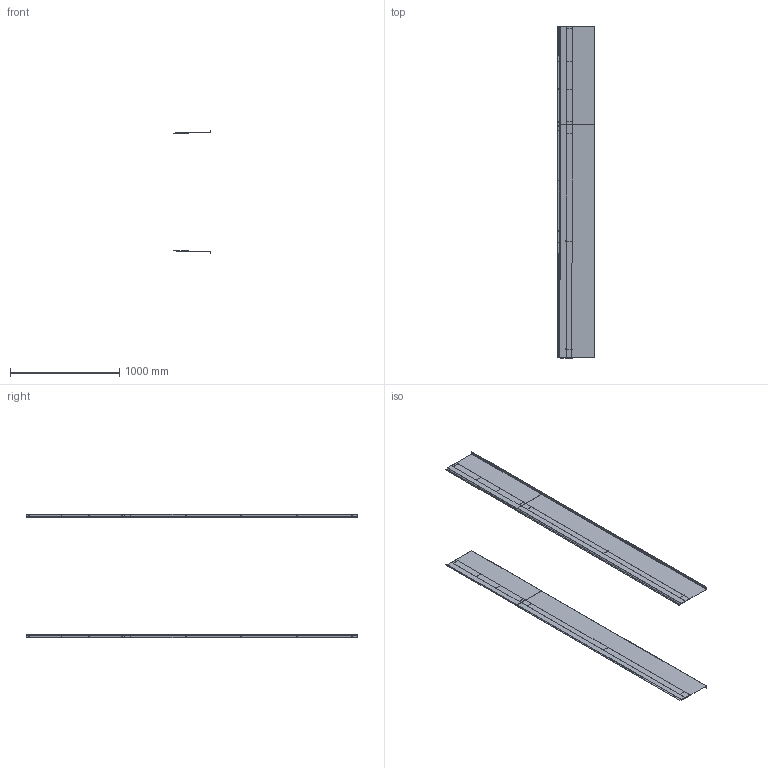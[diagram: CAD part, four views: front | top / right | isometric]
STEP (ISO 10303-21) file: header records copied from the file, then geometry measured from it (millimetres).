
FILE_DESCRIPTION (( 'STEP AP214' ), '1' );
FILE_NAME ('QSTX-12.STEP', '2016-07-28T14:52:14', ( 'BMC' ), ( 'Bard Manufacturing Co., Inc.' ), 'SwSTEP 2.0', 'SolidWorks 2016', '' );
FILE_SCHEMA (( 'AUTOMOTIVE_DESIGN' ));
Length unit declared in the file: inch
Products named in the file (6): 134-265; 134-254; 134-255; 134-256; 134-262; QSTX-12
Assembly tree (8 placements, depth 2):
  QSTX-12
    134-262  x2
    134-265  x2
    134-254
    134-255
    134-256  x2
Bounding box: 346.91 x 3036.21 x 1132.45 mm (x, y, z)
Surface area: 5211591.4 mm2 (no closed solid volume)
Topology: 0 solids, 8 shells, 298 faces, 838 edges, 556 vertices
Faces by surface type: cylinder 182, plane 116
Entity records: 6784 total; most frequent: DIRECTION 1197, CARTESIAN_POINT 1115, ORIENTED_EDGE 1094, EDGE_CURVE 547, AXIS2_PLACEMENT_3D 444, VERTEX_POINT 362, VECTOR 309, LINE 309
